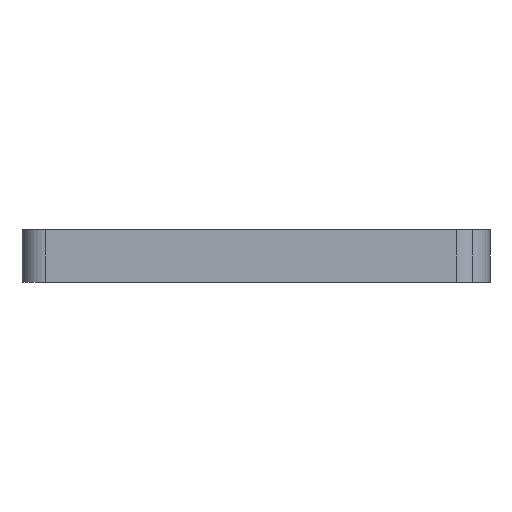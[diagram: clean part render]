
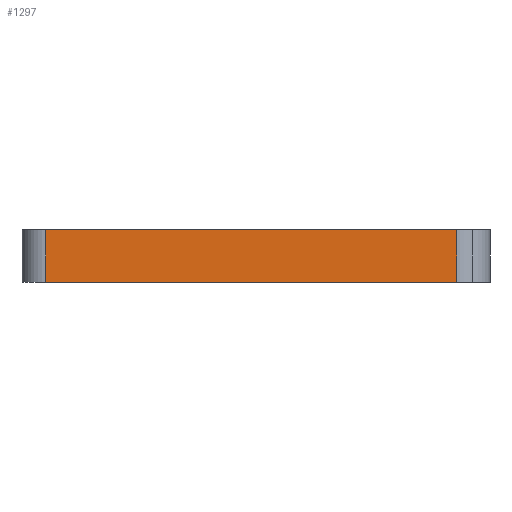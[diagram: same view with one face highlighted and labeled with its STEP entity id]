
A CAD part, left-side view. The second image highlights one B-rep face of the part: STEP entity #1297.
In plain terms, the highlighted planar face has unit normal (-1, 0, 0).
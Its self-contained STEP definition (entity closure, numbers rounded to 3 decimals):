
#37 = VECTOR ( 'NONE', #821, 1000. ) ;
#72 = EDGE_CURVE ( 'NONE', #533, #794, #1220, .T. ) ;
#96 = ORIENTED_EDGE ( 'NONE', *, *, #945, .T. ) ;
#100 = DIRECTION ( 'NONE',  ( 0., -1., 0. ) ) ;
#176 = LINE ( 'NONE', #1634, #182 ) ;
#182 = VECTOR ( 'NONE', #699, 1000. ) ;
#279 = LINE ( 'NONE', #998, #1182 ) ;
#361 = ORIENTED_EDGE ( 'NONE', *, *, #772, .F. ) ;
#438 = PLANE ( 'NONE',  #1074 ) ;
#445 = DIRECTION ( 'NONE',  ( 0., 0., -1. ) ) ;
#533 = VERTEX_POINT ( 'NONE', #576 ) ;
#576 = CARTESIAN_POINT ( 'NONE',  ( -76.5, -43., 11. ) ) ;
#580 = VERTEX_POINT ( 'NONE', #888 ) ;
#658 = CARTESIAN_POINT ( 'NONE',  ( -76.5, -43., 11. ) ) ;
#699 = DIRECTION ( 'NONE',  ( 0., 0., -1. ) ) ;
#772 = EDGE_CURVE ( 'NONE', #903, #533, #1294, .T. ) ;
#794 = VERTEX_POINT ( 'NONE', #1440 ) ;
#821 = DIRECTION ( 'NONE',  ( 0., 0., -1. ) ) ;
#828 = DIRECTION ( 'NONE',  ( 0., -1., 0. ) ) ;
#888 = CARTESIAN_POINT ( 'NONE',  ( -76.5, 43., 0. ) ) ;
#903 = VERTEX_POINT ( 'NONE', #1655 ) ;
#945 = EDGE_CURVE ( 'NONE', #580, #794, #279, .T. ) ;
#951 = CARTESIAN_POINT ( 'NONE',  ( -76.5, -43., 11. ) ) ;
#998 = CARTESIAN_POINT ( 'NONE',  ( -76.5, -43., 0. ) ) ;
#1065 = EDGE_LOOP ( 'NONE', ( #1497, #361, #1555, #96 ) ) ;
#1074 = AXIS2_PLACEMENT_3D ( 'NONE', #1120, #1229, #445 ) ;
#1120 = CARTESIAN_POINT ( 'NONE',  ( -76.5, -43., 11. ) ) ;
#1182 = VECTOR ( 'NONE', #828, 1000. ) ;
#1220 = LINE ( 'NONE', #951, #37 ) ;
#1229 = DIRECTION ( 'NONE',  ( 1., 0., 0. ) ) ;
#1247 = FACE_OUTER_BOUND ( 'NONE', #1065, .T. ) ;
#1284 = EDGE_CURVE ( 'NONE', #903, #580, #176, .T. ) ;
#1294 = LINE ( 'NONE', #658, #1480 ) ;
#1297 = ADVANCED_FACE ( 'NONE', ( #1247 ), #438, .F. ) ;
#1440 = CARTESIAN_POINT ( 'NONE',  ( -76.5, -43., 0. ) ) ;
#1480 = VECTOR ( 'NONE', #100, 1000. ) ;
#1497 = ORIENTED_EDGE ( 'NONE', *, *, #72, .F. ) ;
#1555 = ORIENTED_EDGE ( 'NONE', *, *, #1284, .T. ) ;
#1634 = CARTESIAN_POINT ( 'NONE',  ( -76.5, 43., 11. ) ) ;
#1655 = CARTESIAN_POINT ( 'NONE',  ( -76.5, 43., 11. ) ) ;
